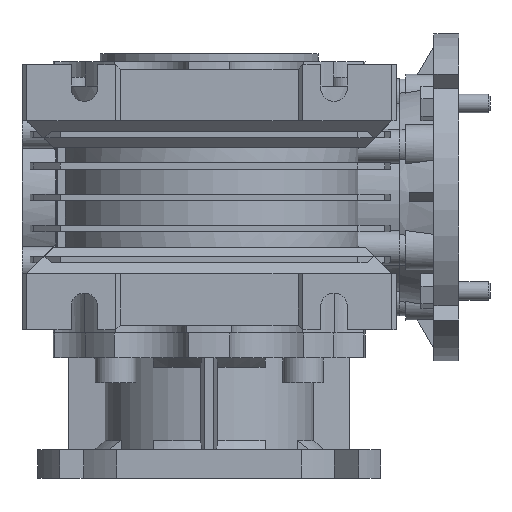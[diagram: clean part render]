
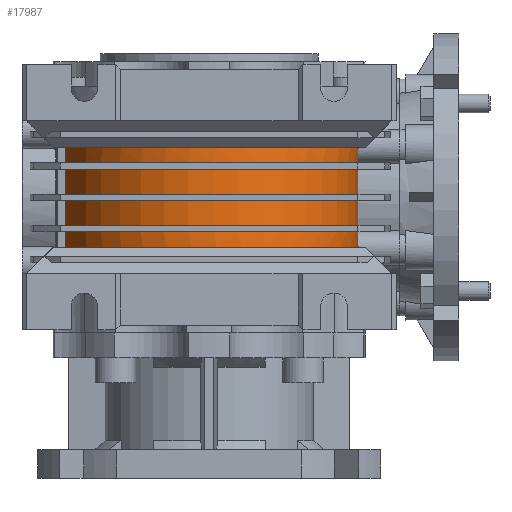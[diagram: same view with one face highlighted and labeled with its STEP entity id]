
A CAD part, front view. The second image highlights one B-rep face of the part: STEP entity #17987.
In plain terms, the highlighted cylindrical face has radius 47.7 mm (diameter 95.4 mm), a partial arc.
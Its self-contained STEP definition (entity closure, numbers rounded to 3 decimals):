
#868=B_SPLINE_CURVE_WITH_KNOTS('',3,(#26552,#26553,#26554,#26555,#26556,
#26557,#26558,#26559,#26560,#26561,#26562),.UNSPECIFIED.,.F.,.F.,(4,1,1,
1,1,1,1,1,4),(0.006,0.01,0.015,
0.019,0.023,0.027,0.032,
0.036,0.04),.UNSPECIFIED.);
#1197=LINE('',#26734,#2854);
#1225=LINE('',#26797,#2882);
#1226=LINE('',#26801,#2883);
#1227=LINE('',#26806,#2884);
#1228=LINE('',#26810,#2885);
#1229=LINE('',#26814,#2886);
#1230=LINE('',#26818,#2887);
#2854=VECTOR('',#21174,1000.);
#2882=VECTOR('',#21212,1000.);
#2883=VECTOR('',#21215,1000.);
#2884=VECTOR('',#21220,1000.);
#2885=VECTOR('',#21223,1000.);
#2886=VECTOR('',#21226,1000.);
#2887=VECTOR('',#21229,1000.);
#4643=ORIENTED_EDGE('',*,*,#10070,.F.);
#4644=ORIENTED_EDGE('',*,*,#10041,.T.);
#4645=ORIENTED_EDGE('',*,*,#10071,.T.);
#4646=ORIENTED_EDGE('',*,*,#10072,.F.);
#4647=ORIENTED_EDGE('',*,*,#10073,.F.);
#4648=ORIENTED_EDGE('',*,*,#10074,.T.);
#4649=ORIENTED_EDGE('',*,*,#10075,.F.);
#4650=ORIENTED_EDGE('',*,*,#9987,.F.);
#4651=ORIENTED_EDGE('',*,*,#10076,.F.);
#4652=ORIENTED_EDGE('',*,*,#10077,.T.);
#4653=ORIENTED_EDGE('',*,*,#10078,.T.);
#4654=ORIENTED_EDGE('',*,*,#10079,.T.);
#4655=ORIENTED_EDGE('',*,*,#10080,.F.);
#4656=ORIENTED_EDGE('',*,*,#10081,.T.);
#4657=ORIENTED_EDGE('',*,*,#10082,.T.);
#4658=ORIENTED_EDGE('',*,*,#10083,.F.);
#9987=EDGE_CURVE('',#12695,#12696,#868,.T.);
#10041=EDGE_CURVE('',#12749,#12750,#1197,.T.);
#10070=EDGE_CURVE('',#12749,#12777,#14523,.T.);
#10071=EDGE_CURVE('',#12750,#12778,#14524,.T.);
#10072=EDGE_CURVE('',#12779,#12778,#1225,.F.);
#10073=EDGE_CURVE('',#12780,#12779,#14525,.T.);
#10074=EDGE_CURVE('',#12780,#12781,#1226,.T.);
#10075=EDGE_CURVE('',#12696,#12781,#14526,.T.);
#10076=EDGE_CURVE('',#12782,#12695,#14527,.T.);
#10077=EDGE_CURVE('',#12782,#12783,#1227,.T.);
#10078=EDGE_CURVE('',#12783,#12784,#14528,.T.);
#10079=EDGE_CURVE('',#12784,#12785,#1228,.T.);
#10080=EDGE_CURVE('',#12786,#12785,#14529,.T.);
#10081=EDGE_CURVE('',#12786,#12787,#1229,.T.);
#10082=EDGE_CURVE('',#12787,#12788,#14530,.T.);
#10083=EDGE_CURVE('',#12777,#12788,#1230,.F.);
#12695=VERTEX_POINT('',#26551);
#12696=VERTEX_POINT('',#26563);
#12749=VERTEX_POINT('',#26735);
#12750=VERTEX_POINT('',#26736);
#12777=VERTEX_POINT('',#26794);
#12778=VERTEX_POINT('',#26796);
#12779=VERTEX_POINT('',#26798);
#12780=VERTEX_POINT('',#26800);
#12781=VERTEX_POINT('',#26802);
#12782=VERTEX_POINT('',#26805);
#12783=VERTEX_POINT('',#26807);
#12784=VERTEX_POINT('',#26809);
#12785=VERTEX_POINT('',#26811);
#12786=VERTEX_POINT('',#26813);
#12787=VERTEX_POINT('',#26815);
#12788=VERTEX_POINT('',#26817);
#14523=CIRCLE('',#19147,47.7);
#14524=CIRCLE('',#19148,47.7);
#14525=CIRCLE('',#19149,47.7);
#14526=CIRCLE('',#19150,47.7);
#14527=CIRCLE('',#19151,47.7);
#14528=CIRCLE('',#19152,47.7);
#14529=CIRCLE('',#19153,47.7);
#14530=CIRCLE('',#19154,47.7);
#15260=EDGE_LOOP('',(#4643,#4644,#4645,#4646,#4647,#4648,#4649,#4650,#4651,
#4652,#4653,#4654,#4655,#4656,#4657,#4658));
#16493=FACE_BOUND('',#15260,.T.);
#17726=CYLINDRICAL_SURFACE('',#19146,47.7);
#17987=ADVANCED_FACE('',(#16493),#17726,.T.);
#19146=AXIS2_PLACEMENT_3D('',#26792,#21206,#21207);
#19147=AXIS2_PLACEMENT_3D('',#26793,#21208,#21209);
#19148=AXIS2_PLACEMENT_3D('',#26795,#21210,#21211);
#19149=AXIS2_PLACEMENT_3D('',#26799,#21213,#21214);
#19150=AXIS2_PLACEMENT_3D('',#26803,#21216,#21217);
#19151=AXIS2_PLACEMENT_3D('',#26804,#21218,#21219);
#19152=AXIS2_PLACEMENT_3D('',#26808,#21221,#21222);
#19153=AXIS2_PLACEMENT_3D('',#26812,#21224,#21225);
#19154=AXIS2_PLACEMENT_3D('',#26816,#21227,#21228);
#21174=DIRECTION('',(1.,0.,0.));
#21206=DIRECTION('',(1.,0.,0.));
#21207=DIRECTION('',(0.,0.,-1.));
#21208=DIRECTION('',(-1.,0.,0.));
#21209=DIRECTION('',(0.,0.,1.));
#21210=DIRECTION('',(-1.,0.,0.));
#21211=DIRECTION('',(0.,0.,1.));
#21212=DIRECTION('',(1.,0.,0.));
#21213=DIRECTION('',(-1.,0.,0.));
#21214=DIRECTION('',(0.,0.,1.));
#21215=DIRECTION('',(1.,0.,0.));
#21216=DIRECTION('',(1.,0.,0.));
#21217=DIRECTION('',(0.,0.,-1.));
#21218=DIRECTION('',(-1.,0.,0.));
#21219=DIRECTION('',(0.,-1.,0.));
#21220=DIRECTION('',(1.,0.,0.));
#21221=DIRECTION('',(-1.,0.,0.));
#21222=DIRECTION('',(0.,0.,1.));
#21223=DIRECTION('',(1.,0.,0.));
#21224=DIRECTION('',(-1.,0.,0.));
#21225=DIRECTION('',(0.,0.,1.));
#21226=DIRECTION('',(1.,0.,0.));
#21227=DIRECTION('',(-1.,0.,0.));
#21228=DIRECTION('',(0.,0.,1.));
#21229=DIRECTION('',(1.,0.,0.));
#26551=CARTESIAN_POINT('',(-16.,-41.203,24.034));
#26552=CARTESIAN_POINT('',(-16.,-41.203,24.034));
#26553=CARTESIAN_POINT('',(-14.847,-41.617,23.323));
#26554=CARTESIAN_POINT('',(-12.374,-42.328,22.018));
#26555=CARTESIAN_POINT('',(-8.441,-43.033,20.59));
#26556=CARTESIAN_POINT('',(-4.252,-43.445,19.697));
#26557=CARTESIAN_POINT('',(-0.001,-43.576,19.401));
#26558=CARTESIAN_POINT('',(4.265,-43.444,19.698));
#26559=CARTESIAN_POINT('',(8.44,-43.033,20.59));
#26560=CARTESIAN_POINT('',(12.377,-42.328,22.019));
#26561=CARTESIAN_POINT('',(14.847,-41.617,23.323));
#26562=CARTESIAN_POINT('',(16.,-41.203,24.034));
#26563=CARTESIAN_POINT('',(16.,-41.203,24.034));
#26734=CARTESIAN_POINT('',(46.,46.166,-12.));
#26735=CARTESIAN_POINT('',(1.,46.166,-12.));
#26736=CARTESIAN_POINT('',(9.,46.166,-12.));
#26792=CARTESIAN_POINT('',(46.,0.,0.));
#26793=CARTESIAN_POINT('',(1.,0.,0.));
#26794=CARTESIAN_POINT('',(1.,-47.277,6.341));
#26795=CARTESIAN_POINT('',(9.,0.,0.));
#26796=CARTESIAN_POINT('',(9.,-47.277,6.341));
#26797=CARTESIAN_POINT('',(46.,-47.277,6.341));
#26798=CARTESIAN_POINT('',(11.,-47.277,6.341));
#26799=CARTESIAN_POINT('',(11.,0.,0.));
#26800=CARTESIAN_POINT('',(11.,46.166,-12.));
#26801=CARTESIAN_POINT('',(46.,46.166,-12.));
#26802=CARTESIAN_POINT('',(16.,46.166,-12.));
#26803=CARTESIAN_POINT('',(16.,0.,0.));
#26804=CARTESIAN_POINT('',(-16.,0.,0.));
#26805=CARTESIAN_POINT('',(-16.,46.166,-12.));
#26806=CARTESIAN_POINT('',(46.,46.166,-12.));
#26807=CARTESIAN_POINT('',(-11.,46.166,-12.));
#26808=CARTESIAN_POINT('',(-11.,0.,0.));
#26809=CARTESIAN_POINT('',(-11.,-47.277,6.341));
#26810=CARTESIAN_POINT('',(46.,-47.277,6.341));
#26811=CARTESIAN_POINT('',(-9.,-47.277,6.341));
#26812=CARTESIAN_POINT('',(-9.,0.,0.));
#26813=CARTESIAN_POINT('',(-9.,46.166,-12.));
#26814=CARTESIAN_POINT('',(46.,46.166,-12.));
#26815=CARTESIAN_POINT('',(-1.,46.166,-12.));
#26816=CARTESIAN_POINT('',(-1.,0.,0.));
#26817=CARTESIAN_POINT('',(-1.,-47.277,6.341));
#26818=CARTESIAN_POINT('',(46.,-47.277,6.341));
